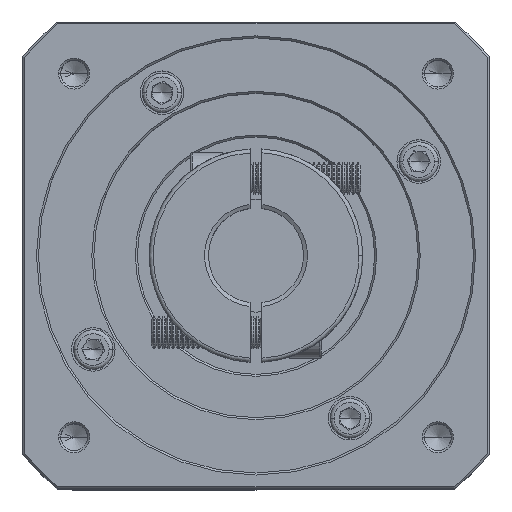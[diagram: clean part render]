
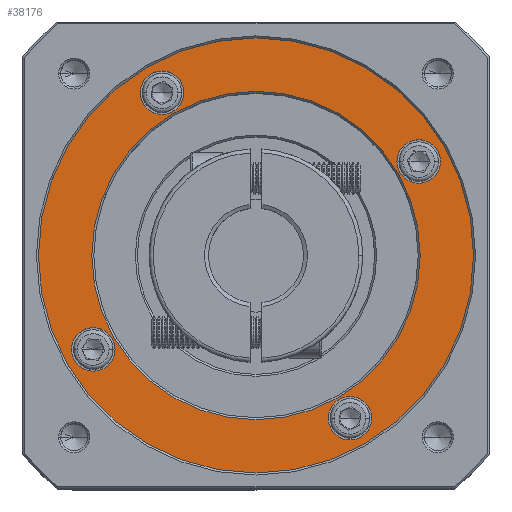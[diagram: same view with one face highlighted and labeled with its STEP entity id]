
A CAD part, top view. The second image highlights one B-rep face of the part: STEP entity #38176.
In plain terms, the highlighted planar face has unit normal (0, 0, 1).
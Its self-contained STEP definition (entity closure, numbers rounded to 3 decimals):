
#388 = EDGE_CURVE ( 'NONE', #1046, #90931, #30730, .T. ) ;
#1046 = VERTEX_POINT ( 'NONE', #70487 ) ;
#1508 = ORIENTED_EDGE ( 'NONE', *, *, #52498, .T. ) ;
#2190 = AXIS2_PLACEMENT_3D ( 'NONE', #31909, #100224, #83841 ) ;
#2486 = FACE_BOUND ( 'NONE', #42213, .T. ) ;
#5995 = CIRCLE ( 'NONE', #20784, 41.5 ) ;
#7134 = CIRCLE ( 'NONE', #12753, 5.5 ) ;
#7578 = EDGE_LOOP ( 'NONE', ( #8273, #1508 ) ) ;
#7938 = EDGE_CURVE ( 'NONE', #81461, #35129, #14033, .T. ) ;
#8273 = ORIENTED_EDGE ( 'NONE', *, *, #388, .T. ) ;
#9721 = CARTESIAN_POINT ( 'NONE',  ( 46.347, 160.588, 23.935 ) ) ;
#9987 = DIRECTION ( 'NONE',  ( 1., 0., 0. ) ) ;
#12696 = CARTESIAN_POINT ( 'NONE',  ( 105.733, 143.202, 23.935 ) ) ;
#12753 = AXIS2_PLACEMENT_3D ( 'NONE', #46886, #104532, #46536 ) ;
#14033 = CIRCLE ( 'NONE', #16627, 55. ) ;
#15453 = CARTESIAN_POINT ( 'NONE',  ( 64.597, 119.452, 23.935 ) ) ;
#16627 = AXIS2_PLACEMENT_3D ( 'NONE', #15453, #99963, #32391 ) ;
#17275 = EDGE_CURVE ( 'NONE', #103333, #70152, #60531, .T. ) ;
#17351 = AXIS2_PLACEMENT_3D ( 'NONE', #54903, #89571, #46815 ) ;
#19261 = DIRECTION ( 'NONE',  ( 1., 0., 0. ) ) ;
#20784 = AXIS2_PLACEMENT_3D ( 'NONE', #88041, #87657, #95842 ) ;
#22293 = FACE_BOUND ( 'NONE', #100445, .T. ) ;
#22741 = DIRECTION ( 'NONE',  ( 1., 0., 0. ) ) ;
#23922 = VERTEX_POINT ( 'NONE', #9721 ) ;
#24229 = DIRECTION ( 'NONE',  ( 1., 0., 0. ) ) ;
#25197 = CARTESIAN_POINT ( 'NONE',  ( 82.847, 78.316, 23.935 ) ) ;
#26635 = CARTESIAN_POINT ( 'NONE',  ( 119.597, 119.452, 23.935 ) ) ;
#27105 = CARTESIAN_POINT ( 'NONE',  ( 93.847, 78.316, 23.935 ) ) ;
#27710 = VERTEX_POINT ( 'NONE', #27105 ) ;
#27965 = VERTEX_POINT ( 'NONE', #25197 ) ;
#30730 = CIRCLE ( 'NONE', #92693, 5.5 ) ;
#30864 = CARTESIAN_POINT ( 'NONE',  ( 17.961, 95.702, 23.935 ) ) ;
#31909 = CARTESIAN_POINT ( 'NONE',  ( 64.597, 119.452, 23.935 ) ) ;
#32391 = DIRECTION ( 'NONE',  ( 1., 0., 0. ) ) ;
#32432 = EDGE_CURVE ( 'NONE', #23922, #39595, #88548, .T. ) ;
#33309 = ORIENTED_EDGE ( 'NONE', *, *, #91007, .T. ) ;
#34747 = CARTESIAN_POINT ( 'NONE',  ( 23.461, 95.702, 23.935 ) ) ;
#35129 = VERTEX_POINT ( 'NONE', #41879 ) ;
#35172 = CARTESIAN_POINT ( 'NONE',  ( 88.347, 78.316, 23.935 ) ) ;
#35307 = EDGE_CURVE ( 'NONE', #39595, #23922, #57386, .T. ) ;
#35923 = DIRECTION ( 'NONE',  ( 1., 0., 0. ) ) ;
#36808 = FACE_OUTER_BOUND ( 'NONE', #85648, .T. ) ;
#36923 = CARTESIAN_POINT ( 'NONE',  ( 40.847, 160.588, 23.935 ) ) ;
#38176 = ADVANCED_FACE ( 'NONE', ( #36808, #51270, #2486, #22293, #86900, #89595 ), #101723, .T. ) ;
#38353 = DIRECTION ( 'NONE',  ( 0., 0., -1. ) ) ;
#39595 = VERTEX_POINT ( 'NONE', #95604 ) ;
#39922 = ORIENTED_EDGE ( 'NONE', *, *, #80892, .T. ) ;
#41879 = CARTESIAN_POINT ( 'NONE',  ( 9.597, 119.452, 23.935 ) ) ;
#42213 = EDGE_LOOP ( 'NONE', ( #88971, #72438 ) ) ;
#42949 = ORIENTED_EDGE ( 'NONE', *, *, #17275, .T. ) ;
#43788 = CARTESIAN_POINT ( 'NONE',  ( 100.233, 143.202, 23.935 ) ) ;
#45749 = DIRECTION ( 'NONE',  ( 1., 0., 0. ) ) ;
#46001 = VERTEX_POINT ( 'NONE', #46409 ) ;
#46382 = DIRECTION ( 'NONE',  ( 0., 0., -1. ) ) ;
#46409 = CARTESIAN_POINT ( 'NONE',  ( 111.233, 143.202, 23.935 ) ) ;
#46536 = DIRECTION ( 'NONE',  ( 1., 0., 0. ) ) ;
#46815 = DIRECTION ( 'NONE',  ( 1., 0., 0. ) ) ;
#46875 = ORIENTED_EDGE ( 'NONE', *, *, #7938, .T. ) ;
#46886 = CARTESIAN_POINT ( 'NONE',  ( 23.461, 95.702, 23.935 ) ) ;
#49514 = AXIS2_PLACEMENT_3D ( 'NONE', #80583, #46382, #22741 ) ;
#50239 = ORIENTED_EDGE ( 'NONE', *, *, #35307, .T. ) ;
#50566 = AXIS2_PLACEMENT_3D ( 'NONE', #67983, #75745, #24229 ) ;
#50908 = EDGE_CURVE ( 'NONE', #92842, #46001, #90867, .T. ) ;
#51270 = FACE_BOUND ( 'NONE', #79818, .T. ) ;
#52464 = DIRECTION ( 'NONE',  ( 0., 0., -1. ) ) ;
#52498 = EDGE_CURVE ( 'NONE', #90931, #1046, #7134, .T. ) ;
#54903 = CARTESIAN_POINT ( 'NONE',  ( 105.733, 143.202, 23.935 ) ) ;
#56951 = ORIENTED_EDGE ( 'NONE', *, *, #71989, .T. ) ;
#57386 = CIRCLE ( 'NONE', #107008, 5.5 ) ;
#57801 = AXIS2_PLACEMENT_3D ( 'NONE', #12696, #64232, #98301 ) ;
#60146 = DIRECTION ( 'NONE',  ( 0., 0., 1. ) ) ;
#60531 = CIRCLE ( 'NONE', #2190, 41.5 ) ;
#62268 = DIRECTION ( 'NONE',  ( 0., 0., -1. ) ) ;
#64232 = DIRECTION ( 'NONE',  ( 0., 0., -1. ) ) ;
#67983 = CARTESIAN_POINT ( 'NONE',  ( 64.597, 119.452, 23.935 ) ) ;
#70104 = CIRCLE ( 'NONE', #107605, 55. ) ;
#70152 = VERTEX_POINT ( 'NONE', #97099 ) ;
#70487 = CARTESIAN_POINT ( 'NONE',  ( 28.961, 95.702, 23.935 ) ) ;
#71989 = EDGE_CURVE ( 'NONE', #70152, #103333, #5995, .T. ) ;
#72065 = EDGE_LOOP ( 'NONE', ( #86631, #50239 ) ) ;
#72438 = ORIENTED_EDGE ( 'NONE', *, *, #50908, .T. ) ;
#72989 = EDGE_CURVE ( 'NONE', #35129, #81461, #70104, .T. ) ;
#73584 = CARTESIAN_POINT ( 'NONE',  ( 40.847, 160.588, 23.935 ) ) ;
#74475 = AXIS2_PLACEMENT_3D ( 'NONE', #35172, #52464, #35923 ) ;
#75745 = DIRECTION ( 'NONE',  ( 0., 0., 1. ) ) ;
#76728 = CARTESIAN_POINT ( 'NONE',  ( 64.597, 119.452, 23.935 ) ) ;
#79818 = EDGE_LOOP ( 'NONE', ( #56951, #42949 ) ) ;
#80583 = CARTESIAN_POINT ( 'NONE',  ( 88.347, 78.316, 23.935 ) ) ;
#80892 = EDGE_CURVE ( 'NONE', #27965, #27710, #107796, .T. ) ;
#81461 = VERTEX_POINT ( 'NONE', #26635 ) ;
#82061 = CIRCLE ( 'NONE', #49514, 5.5 ) ;
#83841 = DIRECTION ( 'NONE',  ( 0., -1., 0. ) ) ;
#85501 = CARTESIAN_POINT ( 'NONE',  ( 64.597, 160.952, 23.935 ) ) ;
#85648 = EDGE_LOOP ( 'NONE', ( #46875, #85690 ) ) ;
#85657 = CIRCLE ( 'NONE', #17351, 5.5 ) ;
#85690 = ORIENTED_EDGE ( 'NONE', *, *, #72989, .T. ) ;
#86631 = ORIENTED_EDGE ( 'NONE', *, *, #32432, .T. ) ;
#86900 = FACE_BOUND ( 'NONE', #72065, .T. ) ;
#87066 = EDGE_CURVE ( 'NONE', #46001, #92842, #85657, .T. ) ;
#87657 = DIRECTION ( 'NONE',  ( 0., 0., -1. ) ) ;
#88041 = CARTESIAN_POINT ( 'NONE',  ( 64.597, 119.452, 23.935 ) ) ;
#88548 = CIRCLE ( 'NONE', #95916, 5.5 ) ;
#88971 = ORIENTED_EDGE ( 'NONE', *, *, #87066, .T. ) ;
#89571 = DIRECTION ( 'NONE',  ( 0., 0., -1. ) ) ;
#89595 = FACE_BOUND ( 'NONE', #7578, .T. ) ;
#90280 = DIRECTION ( 'NONE',  ( 1., 0., 0. ) ) ;
#90867 = CIRCLE ( 'NONE', #57801, 5.5 ) ;
#90931 = VERTEX_POINT ( 'NONE', #30864 ) ;
#91007 = EDGE_CURVE ( 'NONE', #27710, #27965, #82061, .T. ) ;
#92693 = AXIS2_PLACEMENT_3D ( 'NONE', #34747, #103034, #9987 ) ;
#92842 = VERTEX_POINT ( 'NONE', #43788 ) ;
#95604 = CARTESIAN_POINT ( 'NONE',  ( 35.347, 160.588, 23.935 ) ) ;
#95842 = DIRECTION ( 'NONE',  ( 0., -1., 0. ) ) ;
#95916 = AXIS2_PLACEMENT_3D ( 'NONE', #73584, #38353, #90280 ) ;
#97099 = CARTESIAN_POINT ( 'NONE',  ( 64.597, 77.952, 23.935 ) ) ;
#98301 = DIRECTION ( 'NONE',  ( 1., 0., 0. ) ) ;
#99963 = DIRECTION ( 'NONE',  ( 0., 0., 1. ) ) ;
#100224 = DIRECTION ( 'NONE',  ( 0., 0., -1. ) ) ;
#100445 = EDGE_LOOP ( 'NONE', ( #33309, #39922 ) ) ;
#101723 = PLANE ( 'NONE',  #50566 ) ;
#103034 = DIRECTION ( 'NONE',  ( 0., 0., -1. ) ) ;
#103333 = VERTEX_POINT ( 'NONE', #85501 ) ;
#104532 = DIRECTION ( 'NONE',  ( 0., 0., -1. ) ) ;
#107008 = AXIS2_PLACEMENT_3D ( 'NONE', #36923, #62268, #45749 ) ;
#107605 = AXIS2_PLACEMENT_3D ( 'NONE', #76728, #60146, #19261 ) ;
#107796 = CIRCLE ( 'NONE', #74475, 5.5 ) ;
